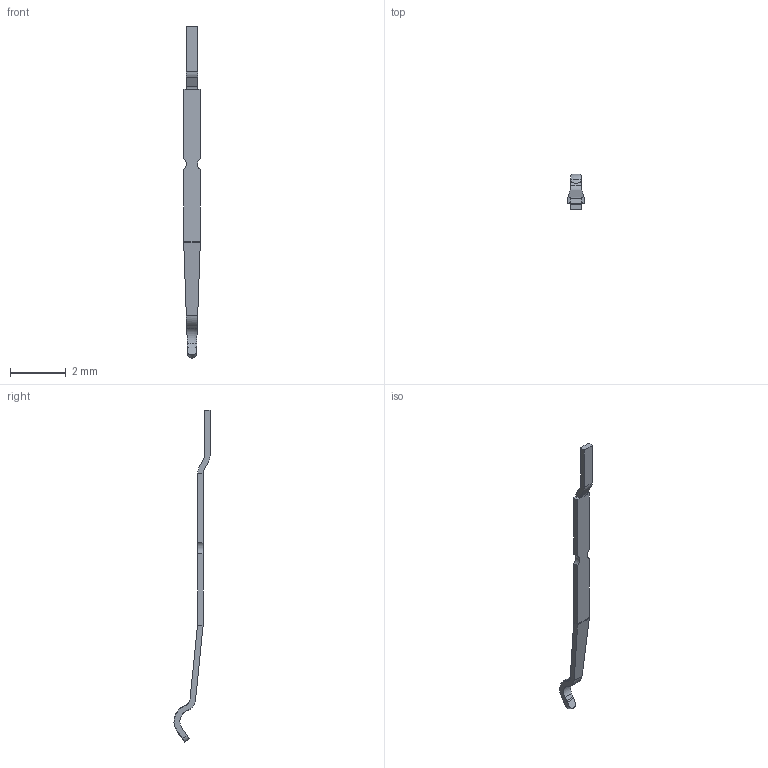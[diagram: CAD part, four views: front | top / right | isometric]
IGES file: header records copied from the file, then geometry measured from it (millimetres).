
Start section:  PTC IGES file: t-dsc20-100x00_1_prt.igs
Global section: file name: t-dsc20-100x00_1_prt.igs; native system: Pro/ENGINEER by Parametric Technology Corporation; preprocessor: 2006170; author: GRA; organization: Unknown; date: 20080630.105213; units: millimetre
Bounding box: 0.6 x 1.3 x 11.95 mm (x, y, z)
Surface area: 17.4 mm2 (no closed solid volume)
Topology: 0 solids, 0 shells, 47 faces, 258 edges, 258 vertices
Faces by surface type: bspline 26, revolution 21
